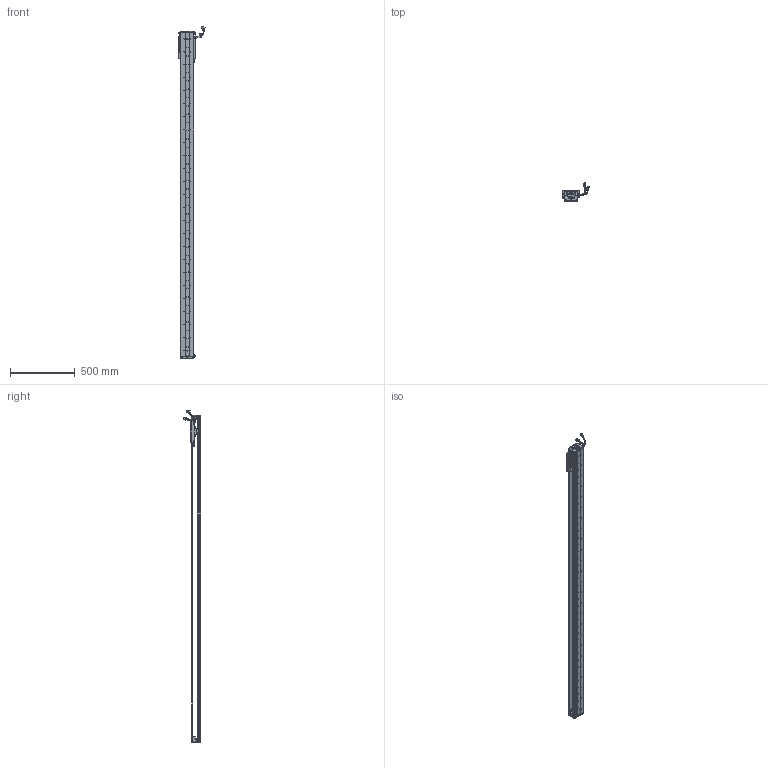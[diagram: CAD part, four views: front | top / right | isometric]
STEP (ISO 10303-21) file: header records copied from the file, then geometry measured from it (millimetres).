
FILE_DESCRIPTION (( 'STEP AP203' ), '1' );
FILE_NAME ('Z2-RY100D-1-L500-B-K.SLDASM_2250.step', '2021-05-17T02:37:34', ( '盈信电脑' ), ( '东莞市道滘镇水果街19号' ), 'SwSTEP 2.0', 'SolidWorks 2016', '' );
FILE_SCHEMA (( 'CONFIG_CONTROL_DESIGN' ));
Length unit declared in the file: millimetre
Products named in the file (36): LABEL-Part-1; Z-RY100D覜茼んえ; Z2-RY100铝滑块（21款）; Z2-RY100D-1-L500-B-K.SLDASM_2250; COVER; HARNESS-Part-2; LABEL; PSLH080_PSLF2; Z2-RY100D-500-倰第菁釱_2250; SEAL-Part-1; 覜茼ん672; Z2-RY100-L500詩湍90mm遵_2250; SCALE; 榋妏寠巭燃_暯_M2_2; SCREW-M1.7-1; SHIELDPLATE; COVER-Part-1; HARNESS-Part-1; HARNESS; SCREW-M1.6-3; PBU_SHEET; SCALE-Part-2; 140雄赽晤鎢ん堤盄; SCREW-M1.7; Z-RY100D詩湍奻揤裔; Z-100詩湍傷裔啣; SCREW-M1.6; Z-RY100D詩湍狟揤裔; HOLDER0; SCREW-M1.6-1; SCREW-M1.6-2; 080黍杅芛假蚾釱21遴; SCALE-Part-1; 100-Z-臏賑輸盄裔(21遴); SEAL; 140蚥薯蝶輸
Assembly tree (43 placements, depth 4):
  Z2-RY100D-1-L500-B-K.SLDASM_2250
    Z2-RY100D-500-倰第菁釱_2250
    Z2-RY100铝滑块（21款）
    PSLH080_PSLF2
      SCALE
        SCALE-Part-1
        SCALE-Part-2
      HARNESS
        HARNESS-Part-1
        HARNESS-Part-2
      LABEL
        LABEL-Part-1
      COVER
        COVER-Part-1
      SEAL
        SEAL-Part-1
      榋妏寠巭燃_暯_M2_2
      SHIELDPLATE
      SCREW-M1.7
      SCREW-M1.7-1
      PBU_SHEET
      SCREW-M1.6
      SCREW-M1.6-1
      SCREW-M1.6-2
      SCREW-M1.6-3
      HOLDER0
    080黍杅芛假蚾釱21遴
    Z-100詩湍傷裔啣  x2
    140蚥薯蝶輸  x2
    覜茼ん672  x3
    Z-RY100D覜茼んえ  x3
    100-Z-臏賑輸盄裔(21遴)
    140雄赽晤鎢ん堤盄
    Z2-RY100-L500詩湍90mm遵_2250
    Z-RY100D詩湍狟揤裔  x2
    Z-RY100D詩湍奻揤裔  x2
Bounding box: 205.84 x 136.11 x 2555.43 mm (x, y, z)
Volume: 4609814 mm3; surface area: 1828734.7 mm2
Topology: 38 solids, 38 shells, 2956 faces, 8055 edges, 5144 vertices
Faces by surface type: cylinder 1438, plane 1178, cone 218, torus 69, bspline 53
Entity records: 85291 total; most frequent: CARTESIAN_POINT 17900, DIRECTION 13719, ORIENTED_EDGE 13006, EDGE_CURVE 6503, AXIS2_PLACEMENT_3D 5147, VERTEX_POINT 4212, VECTOR 3425, LINE 3425
